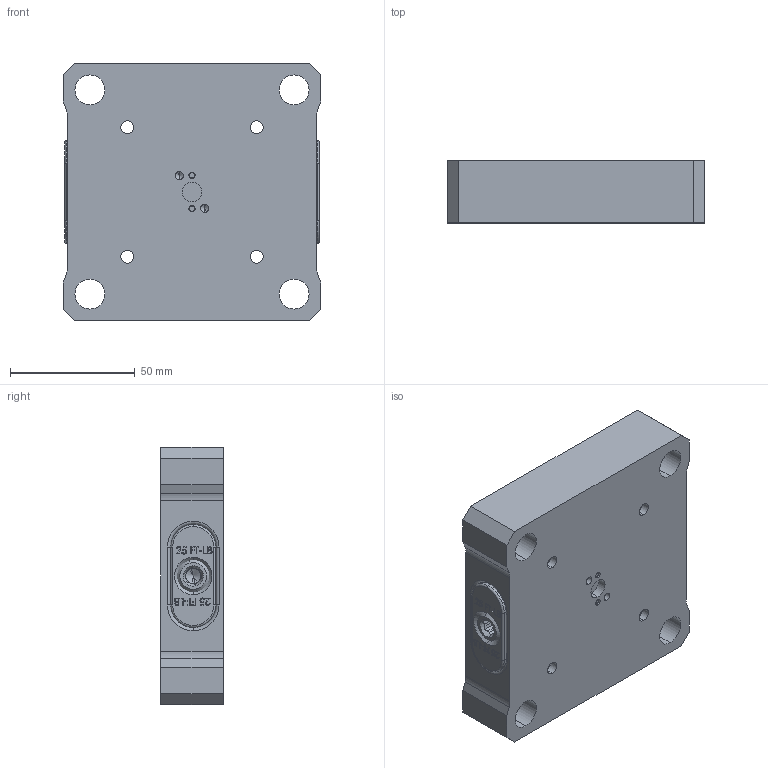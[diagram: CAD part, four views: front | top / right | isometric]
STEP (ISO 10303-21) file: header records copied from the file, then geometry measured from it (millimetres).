
FILE_DESCRIPTION (( 'STEP AP214' ), '1' );
FILE_NAME ('RL52A-44 & RL52S-44.STEP', '2019-03-25T07:09:08', ( '' ), ( '' ), 'SwSTEP 2.0', 'SolidWorks 2018', '' );
FILE_SCHEMA (( 'AUTOMOTIVE_DESIGN' ));
Length unit declared in the file: inch
Products named in the file (7): RL52A-44 & RL52S-44; 22X16.DB; RL52-2R; RL52-2L; RL52-3; RL52-144A & RL52-144S; SB43_SB43
Assembly tree (10 placements, depth 2):
  RL52A-44 & RL52S-44
    RL52-144A & RL52-144S
    RL52-2L
    RL52-2R
    RL52-3
    22X16.DB  x4
    SB43_SB43  x2
Bounding box: 103.5 x 25 x 103.5 mm (x, y, z)
Volume: 214349.6 mm3; surface area: 63746.1 mm2
Topology: 10 solids, 10 shells, 1612 faces, 3840 edges, 2304 vertices
Faces by surface type: plane 983, cylinder 426, bspline 83, cone 80, torus 40
Entity records: 44998 total; most frequent: CARTESIAN_POINT 12985, ORIENTED_EDGE 5552, DIRECTION 5386, EDGE_CURVE 2776, AXIS2_PLACEMENT_3D 1851, VERTEX_POINT 1706, LINE 1684, VECTOR 1684
